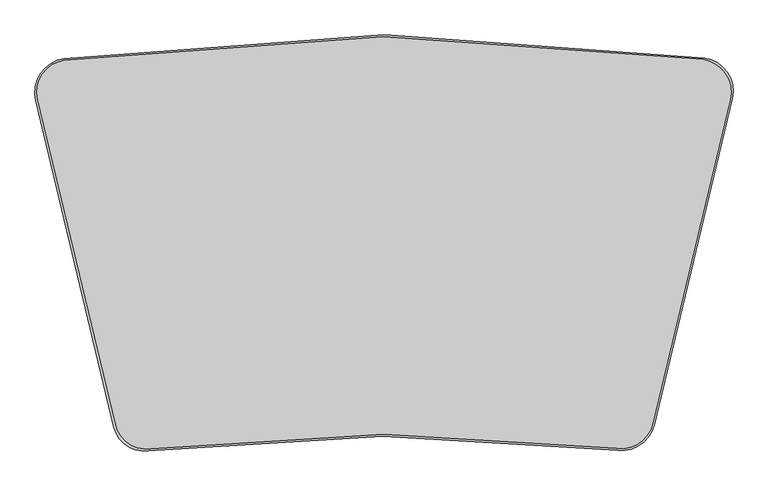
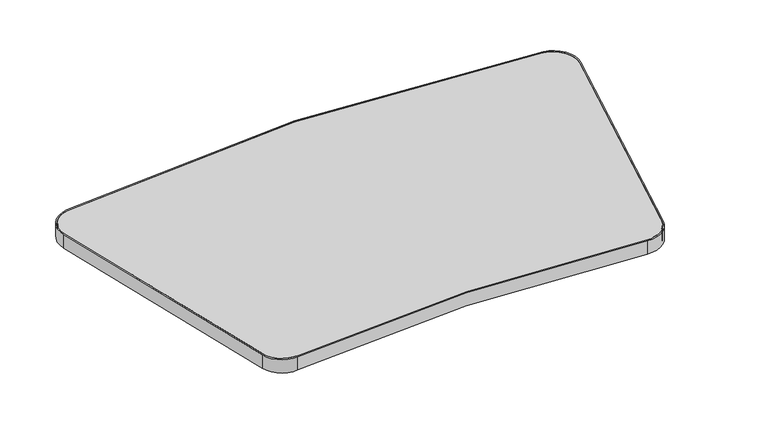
"""IFC4 building model written with IfcOpenShell, lengths in millimetres: furniture geometry, Steelcase - Groupwork - Table - Top - Personal : 24D x 42W - HPL."""

from ifc_helpers import new_model, si_unit, point, frame, frame_2d, origin, place, context, project, spatial, polyline, circle_curve, trimmed, segment, composite_curve, outline, extrude, source, transform, mapped, element, save


def furniture_975a626c(model_context):
    return source(origin(), model_context, "Body", "SweptSolid", [
        extrude(outline(composite_curve([segment(trimmed(circle_curve(frame_2d((53.6430525, -85.6879317)), 52.4864737), [point((2.5918302, -97.8781989))], [point((45.9380921, -33.7700783))], False, "CARTESIAN"), True, "CONTINUOUS"), segment(trimmed(circle_curve(frame_2d((538.9750609, -3355.9702693)), 3358.5859468), [point((45.9380921, -33.7700783))], [point((1024.9768054, -32.7336142))], False, "CARTESIAN"), True, "CONTINUOUS"), segment(trimmed(circle_curve(frame_2d((1017.6258282, -82.9989416)), 50.8), [point((1024.9768054, -32.7336142))], [point((1067.036694, -94.7975156))], False, "CARTESIAN"), True, "CONTINUOUS"), segment(polyline([(1067.036694, -94.7975156), (947.7243436, -594.4618409)]), True, "CONTINUOUS"), segment(trimmed(circle_curve(frame_2d((898.3134779, -582.6632669)), 50.8), [point((947.7243436, -594.4618409))], [point((892.1557389, -633.0886797))], False, "CARTESIAN"), True, "CONTINUOUS"), segment(trimmed(circle_curve(frame_2d((535.9536654, -3550.0094319)), 2938.589218), [point((892.1557389, -633.0886797))], [point((174.138108, -633.779658))], True, "CARTESIAN"), True, "CONTINUOUS"), segment(trimmed(circle_curve(frame_2d((168.2690179, -586.4748505)), 47.667505), [point((174.138108, -633.779658))], [point((121.9049888, -597.5458861))], False, "CARTESIAN"), True, "CONTINUOUS"), segment(polyline([(121.9049888, -597.5458861), (2.5918302, -97.8781989)]), True, "CONTINUOUS")], self_intersect=False), holes=[composite_curve([segment(trimmed(circle_curve(frame_2d((53.220891, -84.7806797)), 48.9287475), [point((46.0282939, -36.3834806))], [point((5.6301083, -96.144646))], True, "CARTESIAN"), True, "CONTINUOUS"), segment(polyline([(5.6301083, -96.144646), (124.419753, -593.6199099)]), True, "CONTINUOUS"), segment(trimmed(circle_curve(frame_2d((171.9844843, -582.2621642)), 48.9019637), [point((124.419753, -593.6199099))], [point((177.9436916, -630.7996745))], True, "CARTESIAN"), True, "CONTINUOUS"), segment(trimmed(circle_curve(frame_2d((536.3505404, -3550.0094319)), 2941.129218), [point((177.9436916, -630.7996745))], [point((890.2228267, -630.2465166))], False, "CARTESIAN"), True, "CONTINUOUS"), segment(trimmed(circle_curve(frame_2d((896.335007, -579.8155613)), 50.8), [point((890.2228267, -630.2465166))], [point((945.7458727, -591.6141353))], True, "CARTESIAN"), True, "CONTINUOUS"), segment(polyline([(945.7458727, -591.6141353), (1063.888682, -96.8476931)]), True, "CONTINUOUS"), segment(trimmed(circle_curve(frame_2d((1014.4778163, -85.0491191)), 50.8), [point((1063.888682, -96.8476931))], [point((1021.7799593, -34.7766743))], True, "CARTESIAN"), True, "CONTINUOUS"), segment(trimmed(circle_curve(frame_2d((539.3719359, -3355.9702693)), 3356.0459468), [point((1021.7799593, -34.7766743))], [point((46.0282939, -36.3834806))], True, "CARTESIAN"), True, "CONTINUOUS")], self_intersect=False)]), frame((0.0, 0.0, 694.944), z_axis=(0.0, 0.0, 1.0), x_axis=(1.0, 0.0, 0.0)), (0.0, 0.0, 1.0), 28.956),
        extrude(outline(composite_curve([segment(trimmed(circle_curve(frame_2d((536.3505404, -3550.0094319)), 2941.129218), [point((890.2228267, -630.2465166))], [point((177.9436916, -630.7996745))], True, "CARTESIAN"), True, "CONTINUOUS"), segment(trimmed(circle_curve(frame_2d((171.9844843, -582.2621642)), 48.9019637), [point((177.9436916, -630.7996745))], [point((124.419753, -593.6199099))], False, "CARTESIAN"), True, "CONTINUOUS"), segment(polyline([(124.419753, -593.6199099), (5.6301083, -96.144646)]), True, "CONTINUOUS"), segment(trimmed(circle_curve(frame_2d((53.220891, -84.7806797)), 48.9287475), [point((5.6301083, -96.144646))], [point((46.0282939, -36.3834806))], False, "CARTESIAN"), True, "CONTINUOUS"), segment(trimmed(circle_curve(frame_2d((539.3719359, -3355.9702693)), 3356.0459468), [point((46.0282939, -36.3834806))], [point((1021.7799593, -34.7766743))], False, "CARTESIAN"), True, "CONTINUOUS"), segment(trimmed(circle_curve(frame_2d((1014.4778163, -85.0491191)), 50.8), [point((1021.7799593, -34.7766743))], [point((1063.888682, -96.8476931))], False, "CARTESIAN"), True, "CONTINUOUS"), segment(polyline([(1063.888682, -96.8476931), (945.7458727, -591.6141353)]), True, "CONTINUOUS"), segment(trimmed(circle_curve(frame_2d((896.335007, -579.8155613)), 50.8), [point((945.7458727, -591.6141353))], [point((890.2228267, -630.2465166))], False, "CARTESIAN"), True, "CONTINUOUS")], self_intersect=False)), frame((0.0, 0.0, 694.944), z_axis=(0.0, 0.0, 1.0), x_axis=(1.0, 0.0, 0.0)), (0.0, 0.0, 1.0), 28.956),
    ])


if __name__ == "__main__":
    model = new_model("IFC4")
    model_context = context("Model", 3, world=origin())
    ifc_project = project(units=[si_unit("LENGTHUNIT", "METRE", prefix="MILLI")], contexts=[model_context])
    site = spatial("IfcSite", under=ifc_project)
    building = spatial("IfcBuilding", under=site)
    placement = place(None, origin())
    furniture_shape = furniture_975a626c(model_context)
    element("IfcFurniture", 1, ObjectType="Steelcase - Groupwork - Table - Top - Personal : 24D x 42W - HPL", at=placement, inside=building, context=model_context, shape_type="MappedRepresentation", body=[
        mapped(furniture_shape, transform((0.0, 0.0, 0.0), x_axis=(1.0, 0.0, 0.0), y_axis=(0.0, 1.0, 0.0), z_axis=(0.0, 0.0, 1.0))),
    ])
    save(model, "model.ifc")
